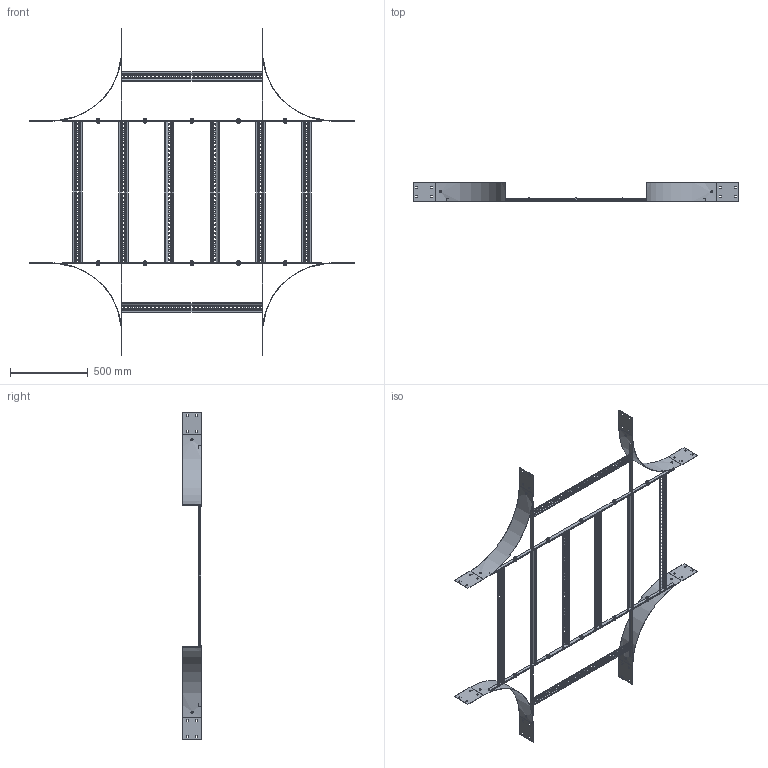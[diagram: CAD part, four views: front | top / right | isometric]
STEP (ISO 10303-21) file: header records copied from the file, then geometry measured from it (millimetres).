
FILE_DESCRIPTION (( 'STEP AP203' ), '1' );
FILE_NAME ('N3 C 9004.STEP', '2024-08-27T05:06:50', ( '' ), ( '' ), 'SwSTEP 2.0', 'SolidWorks 2023', '' );
FILE_SCHEMA (( 'CONFIG_CONTROL_DESIGN' ));
Length unit declared in the file: millimetre
Products named in the file (13): Ladder Tee 20x5 Flat Bar_1666; N3 RADIUS PLATE_N1-450 IR; N3 C 9004; Ladder Tee 20x5 Flat Bar_378; N3C9004 horizontal_N3 C; Washers_M10 washer; Fascia bolt - M10x25_Fascia bolt; Fascia Kit M10x25_4th position; CNH M10 Collar Nut_CNH M10 collar nut HDG; N3C9004 vertical with sides_N3 C; Ladder Rung_Ladder Rung -  900mm
Assembly tree (30 placements, depth 3):
  N3 C 9004
    N3C9004 vertical with sides_N3 C  x2
      Ladder Tee 20x5 Flat Bar_1666
      N3 RADIUS PLATE_N1-450 IR
      Ladder Rung_Ladder Rung -  900mm
      Ladder Tee 20x5 Flat Bar_378
    N3C9004 horizontal_N3 C
      Ladder Rung_Ladder Rung -  900mm  x6
      Ladder Tee 20x5 Flat Bar_1666
      Ladder Tee 20x5 Flat Bar_1666
    Fascia Kit M10x25_4th position  x10
      Fascia bolt - M10x25_Fascia bolt
      Washers_M10 washer
      CNH M10 Collar Nut_CNH M10 collar nut HDG
Bounding box: 2085 x 124 x 2095 mm (x, y, z)
Volume: 2595005.3 mm3; surface area: 2447822.2 mm2
Topology: 50 solids, 50 shells, 3636 faces, 9850 edges, 6354 vertices
Faces by surface type: plane 3068, cylinder 188, cone 140, bspline 140, torus 80, sphere 20
Entity records: 19246 total; most frequent: CARTESIAN_POINT 4498, ORIENTED_EDGE 2730, DIRECTION 2473, EDGE_CURVE 1365, LINE 1113, VECTOR 1113, VERTEX_POINT 885, AXIS2_PLACEMENT_3D 680
